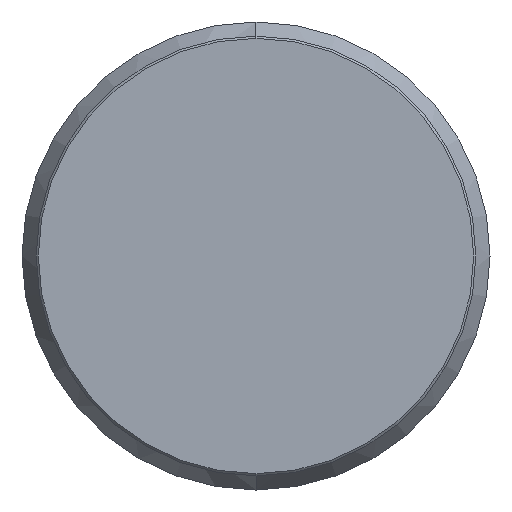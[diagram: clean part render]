
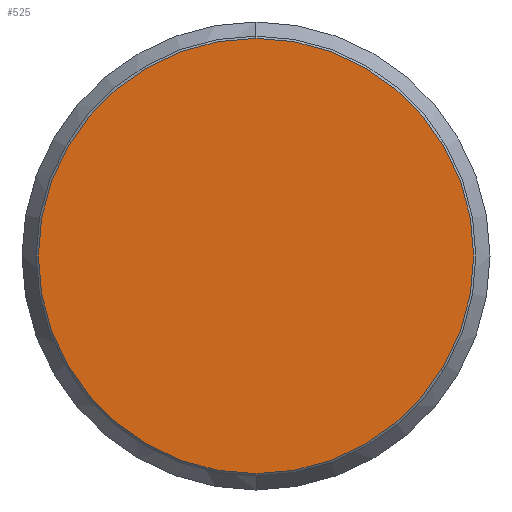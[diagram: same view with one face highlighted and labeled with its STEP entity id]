
A CAD part, left-side view. The second image highlights one B-rep face of the part: STEP entity #525.
In plain terms, the highlighted planar face has unit normal (-1, 0, 0).
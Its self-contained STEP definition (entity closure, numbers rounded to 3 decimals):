
#30 = DIRECTION ( 'NONE',  ( -1., 0., 0. ) ) ;
#39 = ORIENTED_EDGE ( 'NONE', *, *, #344, .T. ) ;
#69 = DIRECTION ( 'NONE',  ( 0., 0., 1. ) ) ;
#88 = ORIENTED_EDGE ( 'NONE', *, *, #619, .T. ) ;
#160 = CIRCLE ( 'NONE', #421, 30.7 ) ;
#187 = CARTESIAN_POINT ( 'NONE',  ( 0., 0., -30.7 ) ) ;
#225 = DIRECTION ( 'NONE',  ( 0., 0., -1. ) ) ;
#238 = DIRECTION ( 'NONE',  ( -1., 0., 0. ) ) ;
#252 = DIRECTION ( 'NONE',  ( 0., 0., 1. ) ) ;
#255 = CARTESIAN_POINT ( 'NONE',  ( 0., 0., 0. ) ) ;
#258 = AXIS2_PLACEMENT_3D ( 'NONE', #666, #238, #69 ) ;
#276 = CARTESIAN_POINT ( 'NONE',  ( 0., 0., 0. ) ) ;
#307 = FACE_OUTER_BOUND ( 'NONE', #433, .T. ) ;
#344 = EDGE_CURVE ( 'NONE', #668, #672, #160, .T. ) ;
#390 = CIRCLE ( 'NONE', #258, 30.7 ) ;
#421 = AXIS2_PLACEMENT_3D ( 'NONE', #255, #30, #252 ) ;
#427 = AXIS2_PLACEMENT_3D ( 'NONE', #276, #650, #225 ) ;
#433 = EDGE_LOOP ( 'NONE', ( #88, #39 ) ) ;
#444 = PLANE ( 'NONE',  #427 ) ;
#525 = ADVANCED_FACE ( 'NONE', ( #307 ), #444, .F. ) ;
#619 = EDGE_CURVE ( 'NONE', #672, #668, #390, .T. ) ;
#650 = DIRECTION ( 'NONE',  ( 1., 0., 0. ) ) ;
#662 = CARTESIAN_POINT ( 'NONE',  ( 0., 0., 30.7 ) ) ;
#666 = CARTESIAN_POINT ( 'NONE',  ( 0., 0., 0. ) ) ;
#668 = VERTEX_POINT ( 'NONE', #662 ) ;
#672 = VERTEX_POINT ( 'NONE', #187 ) ;
